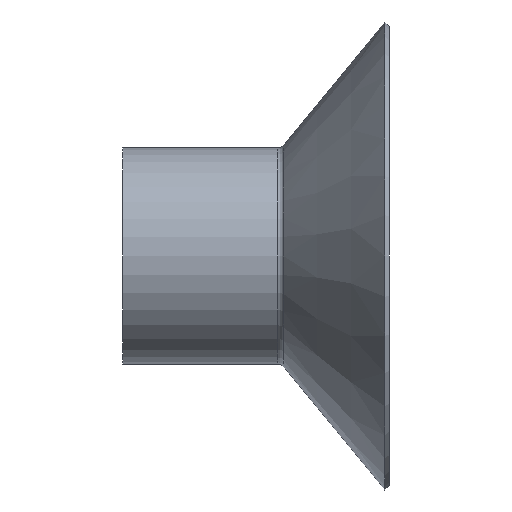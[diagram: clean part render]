
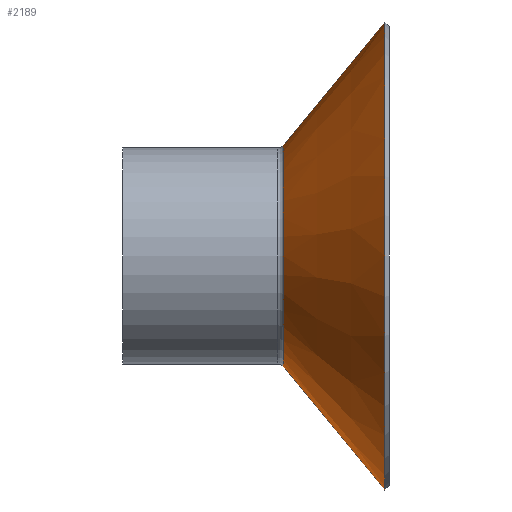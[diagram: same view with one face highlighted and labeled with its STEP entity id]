
A CAD part, left-side view. The second image highlights one B-rep face of the part: STEP entity #2189.
In plain terms, the highlighted conical face has half-angle 50.55 degrees and reference radius 7.5 mm.
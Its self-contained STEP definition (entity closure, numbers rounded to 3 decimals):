
#29 = LINE ( 'NONE', #1225, #452 ) ;
#51 = DIRECTION ( 'NONE',  ( 0., -0.635, 0.772 ) ) ;
#108 = DIRECTION ( 'NONE',  ( 0., -1., 0. ) ) ;
#220 = CARTESIAN_POINT ( 'NONE',  ( 0., -18.2, 16.25 ) ) ;
#305 = DIRECTION ( 'NONE',  ( 0., 0., -1. ) ) ;
#341 = CONICAL_SURFACE ( 'NONE', #1735, 7.5, 0.882 ) ;
#364 = DIRECTION ( 'NONE',  ( 0., 0., -1. ) ) ;
#452 = VECTOR ( 'NONE', #2105, 1000. ) ;
#455 = VERTEX_POINT ( 'NONE', #1599 ) ;
#543 = CARTESIAN_POINT ( 'NONE',  ( 0., -11., 0. ) ) ;
#620 = DIRECTION ( 'NONE',  ( 0., 1., 0. ) ) ;
#676 = AXIS2_PLACEMENT_3D ( 'NONE', #782, #620, #1346 ) ;
#754 = VERTEX_POINT ( 'NONE', #220 ) ;
#768 = ORIENTED_EDGE ( 'NONE', *, *, #2026, .T. ) ;
#782 = CARTESIAN_POINT ( 'NONE',  ( 0., -18.2, 0. ) ) ;
#966 = CIRCLE ( 'NONE', #676, 16.25 ) ;
#1079 = CARTESIAN_POINT ( 'NONE',  ( 0., -11.15, -7.682 ) ) ;
#1081 = FACE_OUTER_BOUND ( 'NONE', #1768, .T. ) ;
#1189 = VECTOR ( 'NONE', #51, 1000. ) ;
#1225 = CARTESIAN_POINT ( 'NONE',  ( 0., -11., -7.5 ) ) ;
#1260 = EDGE_CURVE ( 'NONE', #455, #754, #1681, .T. ) ;
#1346 = DIRECTION ( 'NONE',  ( 0., 0., 1. ) ) ;
#1414 = EDGE_CURVE ( 'NONE', #2199, #754, #966, .T. ) ;
#1585 = ORIENTED_EDGE ( 'NONE', *, *, #1949, .T. ) ;
#1599 = CARTESIAN_POINT ( 'NONE',  ( 0., -11.15, 7.682 ) ) ;
#1609 = VERTEX_POINT ( 'NONE', #1079 ) ;
#1681 = LINE ( 'NONE', #2198, #1189 ) ;
#1735 = AXIS2_PLACEMENT_3D ( 'NONE', #543, #1804, #364 ) ;
#1768 = EDGE_LOOP ( 'NONE', ( #2044, #1585, #768, #1823 ) ) ;
#1804 = DIRECTION ( 'NONE',  ( 0., -1., 0. ) ) ;
#1823 = ORIENTED_EDGE ( 'NONE', *, *, #1414, .T. ) ;
#1885 = CIRCLE ( 'NONE', #2129, 7.682 ) ;
#1949 = EDGE_CURVE ( 'NONE', #455, #1609, #1885, .T. ) ;
#2026 = EDGE_CURVE ( 'NONE', #1609, #2199, #29, .T. ) ;
#2037 = CARTESIAN_POINT ( 'NONE',  ( 0., -11.15, 0. ) ) ;
#2044 = ORIENTED_EDGE ( 'NONE', *, *, #1260, .F. ) ;
#2105 = DIRECTION ( 'NONE',  ( 0., -0.635, -0.772 ) ) ;
#2129 = AXIS2_PLACEMENT_3D ( 'NONE', #2037, #108, #305 ) ;
#2152 = CARTESIAN_POINT ( 'NONE',  ( 0., -18.2, -16.25 ) ) ;
#2189 = ADVANCED_FACE ( 'NONE', ( #1081 ), #341, .T. ) ;
#2198 = CARTESIAN_POINT ( 'NONE',  ( 0., -11., 7.5 ) ) ;
#2199 = VERTEX_POINT ( 'NONE', #2152 ) ;
